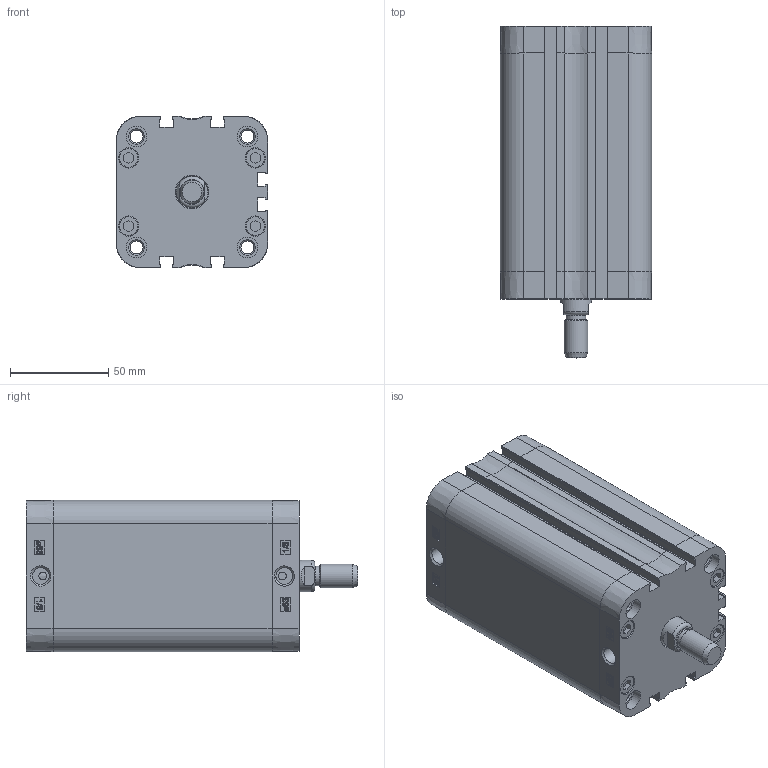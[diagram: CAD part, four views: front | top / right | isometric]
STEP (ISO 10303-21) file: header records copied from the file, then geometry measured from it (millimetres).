
FILE_DESCRIPTION((''),'2;1');
FILE_NAME('T:\Archivio Inventor\- CATALOGHI 2012\SERIE P - NUOVA\PDM\PDM063\PDM063.---.GS.M\PDM063.090.GS.M.stp','2013-02-04T09:29:53',('Administrator'),(''),'Autodesk Inventor 2012','Autodesk Inventor 2012','');
FILE_SCHEMA(('CONFIG_CONTROL_DESIGN'));
Length unit declared in the file: millimetre
Products named in the file (1): PDM063.090.GS.M
Bounding box: 77 x 169 x 77 mm (x, y, z)
Volume: 340625.3 mm3; surface area: 131728.6 mm2
Topology: 1 solids, 5 shells, 824 faces, 1993 edges, 1252 vertices
Faces by surface type: plane 346, bspline 218, cylinder 142, torus 55, cone 45, sphere 18
Full cylindrical faces by diameter (mm): 4 x2, 6.3 x4, 6.647 x8, 8.047 x4, 8.566 x2, 9.8 x8, 10 x1, 10.3 x8, 10.5 x8, 12 x2, 16 x1, 16.5 x1, 63 x1, 65.4 x1, 65.6 x1
Entity records: 27354 total; most frequent: CARTESIAN_POINT 9106, ORIENTED_EDGE 3744, DIRECTION 3031, EDGE_CURVE 1872, VERTEX_POINT 1231, AXIS2_PLACEMENT_3D 1026, EDGE_LOOP 1003, VECTOR 979
